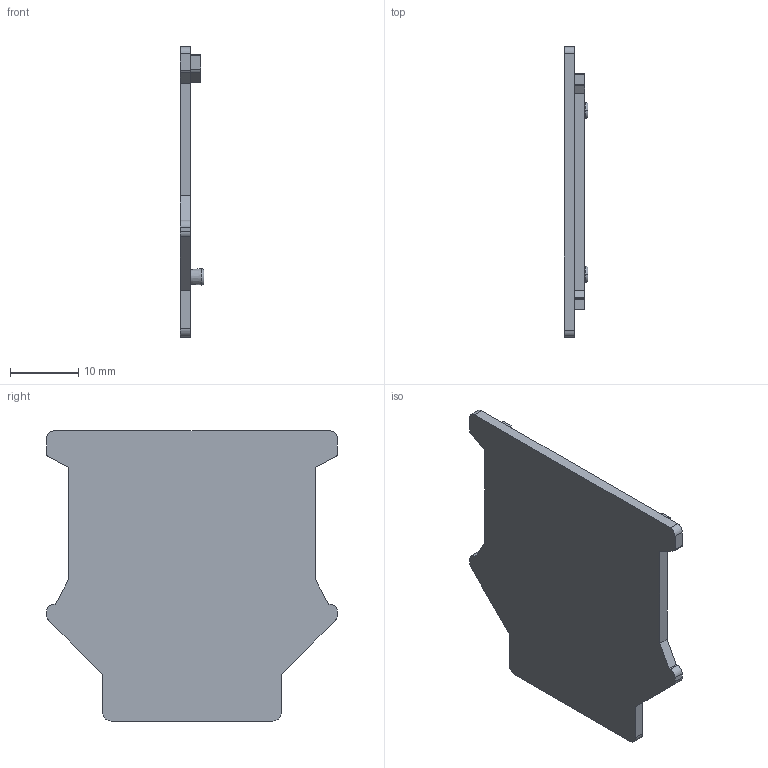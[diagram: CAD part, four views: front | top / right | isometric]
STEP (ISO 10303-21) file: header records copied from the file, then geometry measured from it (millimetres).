
FILE_DESCRIPTION((''),'2;1');
FILE_NAME('D-PC16-11-00AH','2020-06-04T',('Administrator'),(''),'PRO/ENGINEER BY PARAMETRIC TECHNOLOGY CORPORATION, 2012360','PRO/ENGINEER BY PARAMETRIC TECHNOLOGY CORPORATION, 2012360','');
FILE_SCHEMA(('CONFIG_CONTROL_DESIGN'));
Length unit declared in the file: millimetre
Products named in the file (1): D-PC16-11-00AH
Bounding box: 3.5 x 42.5 x 42.45 mm (x, y, z)
Volume: 2328.1 mm3; surface area: 3394.9 mm2
Topology: 1 solids, 1 shells, 61 faces, 164 edges, 108 vertices
Faces by surface type: plane 35, cylinder 18, cone 4, torus 4
Entity records: 1956 total; most frequent: DIRECTION 338, CARTESIAN_POINT 333, ORIENTED_EDGE 328, EDGE_CURVE 164, AXIS2_PLACEMENT_3D 113, VECTOR 112, LINE 112, VERTEX_POINT 108
